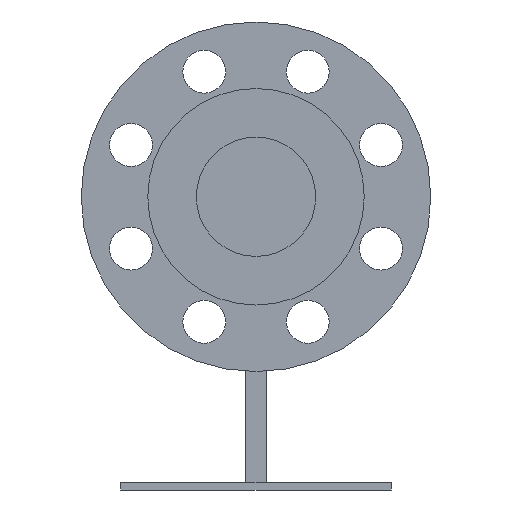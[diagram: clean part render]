
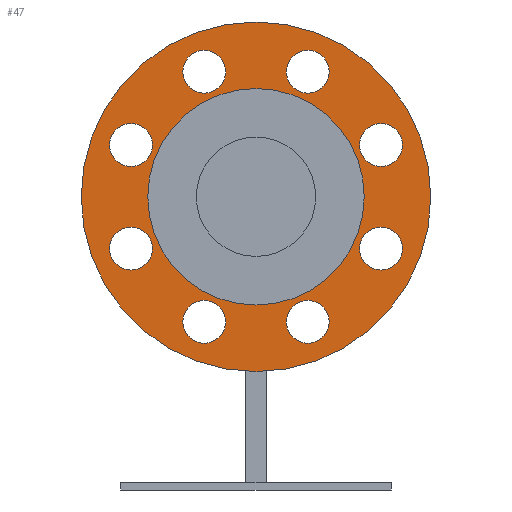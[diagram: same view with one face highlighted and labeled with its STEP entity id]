
A CAD part, left-side view. The second image highlights one B-rep face of the part: STEP entity #47.
In plain terms, the highlighted planar face has unit normal (-1, 0, 0).
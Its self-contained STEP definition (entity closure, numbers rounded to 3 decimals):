
#47=ADVANCED_FACE('',(#216,#217,#218,#219,#220,#221,#222,#223,#224,#225),#215,.T.);
#215=PLANE('',#1175);
#216=FACE_OUTER_BOUND('',#1176,.T.);
#217=FACE_BOUND('',#1177,.T.);
#218=FACE_BOUND('',#1178,.T.);
#219=FACE_BOUND('',#1179,.T.);
#220=FACE_BOUND('',#1180,.T.);
#221=FACE_BOUND('',#1181,.T.);
#222=FACE_BOUND('',#1182,.T.);
#223=FACE_BOUND('',#1183,.T.);
#224=FACE_BOUND('',#1184,.T.);
#225=FACE_BOUND('',#1185,.T.);
#1172=CARTESIAN_POINT('',(-337.,-144.234,-165.));
#1173=DIRECTION('',(-1.,0.,0.));
#1174=DIRECTION('',(0.,0.,1.));
#1175=AXIS2_PLACEMENT_3D('',#1172,#1173,#1174);
#1176=EDGE_LOOP('',(#1693,#1694));
#1177=EDGE_LOOP('',(#1695,#1696));
#1178=EDGE_LOOP('',(#1697,#1698));
#1179=EDGE_LOOP('',(#1699,#1700));
#1180=EDGE_LOOP('',(#1701,#1702));
#1181=EDGE_LOOP('',(#1703,#1704));
#1182=EDGE_LOOP('',(#1705,#1706));
#1183=EDGE_LOOP('',(#1707,#1708));
#1184=EDGE_LOOP('',(#1709,#1710));
#1185=EDGE_LOOP('',(#1711,#1712));
#1693=ORIENTED_EDGE('',*,*,#2177,.T.);
#1694=ORIENTED_EDGE('',*,*,#2178,.T.);
#1695=ORIENTED_EDGE('',*,*,#2179,.T.);
#1696=ORIENTED_EDGE('',*,*,#2180,.T.);
#1697=ORIENTED_EDGE('',*,*,#2181,.T.);
#1698=ORIENTED_EDGE('',*,*,#2182,.T.);
#1699=ORIENTED_EDGE('',*,*,#2183,.T.);
#1700=ORIENTED_EDGE('',*,*,#2184,.T.);
#1701=ORIENTED_EDGE('',*,*,#2185,.T.);
#1702=ORIENTED_EDGE('',*,*,#2186,.T.);
#1703=ORIENTED_EDGE('',*,*,#2187,.T.);
#1704=ORIENTED_EDGE('',*,*,#2188,.T.);
#1705=ORIENTED_EDGE('',*,*,#2189,.T.);
#1706=ORIENTED_EDGE('',*,*,#2190,.T.);
#1707=ORIENTED_EDGE('',*,*,#2191,.T.);
#1708=ORIENTED_EDGE('',*,*,#2192,.T.);
#1709=ORIENTED_EDGE('',*,*,#2193,.T.);
#1710=ORIENTED_EDGE('',*,*,#2194,.T.);
#1711=ORIENTED_EDGE('',*,*,#2195,.F.);
#1712=ORIENTED_EDGE('',*,*,#2196,.F.);
#2177=EDGE_CURVE('',#2689,#2690,#2691,.T.);
#2178=EDGE_CURVE('',#2690,#2689,#2697,.T.);
#2179=EDGE_CURVE('',#2703,#2704,#2705,.T.);
#2180=EDGE_CURVE('',#2704,#2703,#2711,.T.);
#2181=EDGE_CURVE('',#2717,#2718,#2719,.T.);
#2182=EDGE_CURVE('',#2718,#2717,#2725,.T.);
#2183=EDGE_CURVE('',#2731,#2732,#2733,.T.);
#2184=EDGE_CURVE('',#2732,#2731,#2739,.T.);
#2185=EDGE_CURVE('',#2745,#2746,#2747,.T.);
#2186=EDGE_CURVE('',#2746,#2745,#2753,.T.);
#2187=EDGE_CURVE('',#2759,#2760,#2761,.T.);
#2188=EDGE_CURVE('',#2760,#2759,#2767,.T.);
#2189=EDGE_CURVE('',#2773,#2774,#2775,.T.);
#2190=EDGE_CURVE('',#2774,#2773,#2781,.T.);
#2191=EDGE_CURVE('',#2787,#2788,#2789,.T.);
#2192=EDGE_CURVE('',#2788,#2787,#2795,.T.);
#2193=EDGE_CURVE('',#2801,#2802,#2803,.T.);
#2194=EDGE_CURVE('',#2802,#2801,#2809,.T.);
#2195=EDGE_CURVE('',#2815,#2816,#2817,.T.);
#2196=EDGE_CURVE('',#2816,#2815,#2823,.T.);
#2689=VERTEX_POINT('',#4200);
#2690=VERTEX_POINT('',#4201);
#2691=CIRCLE('',#4205,77.5);
#2697=CIRCLE('',#4209,77.5);
#2703=VERTEX_POINT('',#4210);
#2704=VERTEX_POINT('',#4211);
#2705=CIRCLE('',#4215,9.5);
#2711=CIRCLE('',#4219,9.5);
#2717=VERTEX_POINT('',#4220);
#2718=VERTEX_POINT('',#4221);
#2719=CIRCLE('',#4225,9.5);
#2725=CIRCLE('',#4229,9.5);
#2731=VERTEX_POINT('',#4230);
#2732=VERTEX_POINT('',#4231);
#2733=CIRCLE('',#4235,9.5);
#2739=CIRCLE('',#4239,9.5);
#2745=VERTEX_POINT('',#4240);
#2746=VERTEX_POINT('',#4241);
#2747=CIRCLE('',#4245,9.5);
#2753=CIRCLE('',#4249,9.5);
#2759=VERTEX_POINT('',#4250);
#2760=VERTEX_POINT('',#4251);
#2761=CIRCLE('',#4255,9.5);
#2767=CIRCLE('',#4259,9.5);
#2773=VERTEX_POINT('',#4260);
#2774=VERTEX_POINT('',#4261);
#2775=CIRCLE('',#4265,9.5);
#2781=CIRCLE('',#4269,9.5);
#2787=VERTEX_POINT('',#4270);
#2788=VERTEX_POINT('',#4271);
#2789=CIRCLE('',#4275,9.5);
#2795=CIRCLE('',#4279,9.5);
#2801=VERTEX_POINT('',#4280);
#2802=VERTEX_POINT('',#4281);
#2803=CIRCLE('',#4285,9.5);
#2809=CIRCLE('',#4289,9.5);
#2815=VERTEX_POINT('',#4290);
#2816=VERTEX_POINT('',#4291);
#2817=CIRCLE('',#4295,48.);
#2823=CIRCLE('',#4299,48.);
#4200=CARTESIAN_POINT('',(-337.,0.,77.5));
#4201=CARTESIAN_POINT('',(-337.,0.,-77.5));
#4202=CARTESIAN_POINT('',(-337.,0.,0.));
#4203=DIRECTION('',(-1.,0.,0.));
#4204=DIRECTION('',(0.,0.,1.));
#4205=AXIS2_PLACEMENT_3D('',#4202,#4203,#4204);
#4206=CARTESIAN_POINT('',(-337.,0.,0.));
#4207=DIRECTION('',(-1.,0.,0.));
#4208=DIRECTION('',(0.,0.,1.));
#4209=AXIS2_PLACEMENT_3D('',#4206,#4207,#4208);
#4210=CARTESIAN_POINT('',(-337.,55.433,32.461));
#4211=CARTESIAN_POINT('',(-337.,55.433,13.461));
#4212=CARTESIAN_POINT('',(-337.,55.433,22.961));
#4213=DIRECTION('',(1.,0.,0.));
#4214=DIRECTION('',(0.,0.,1.));
#4215=AXIS2_PLACEMENT_3D('',#4212,#4213,#4214);
#4216=CARTESIAN_POINT('',(-337.,55.433,22.961));
#4217=DIRECTION('',(1.,0.,0.));
#4218=DIRECTION('',(0.,0.,1.));
#4219=AXIS2_PLACEMENT_3D('',#4216,#4217,#4218);
#4220=CARTESIAN_POINT('',(-337.,22.962,64.933));
#4221=CARTESIAN_POINT('',(-337.,22.962,45.933));
#4222=CARTESIAN_POINT('',(-337.,22.962,55.433));
#4223=DIRECTION('',(1.,0.,0.));
#4224=DIRECTION('',(0.,0.,1.));
#4225=AXIS2_PLACEMENT_3D('',#4222,#4223,#4224);
#4226=CARTESIAN_POINT('',(-337.,22.962,55.433));
#4227=DIRECTION('',(1.,0.,0.));
#4228=DIRECTION('',(0.,0.,1.));
#4229=AXIS2_PLACEMENT_3D('',#4226,#4227,#4228);
#4230=CARTESIAN_POINT('',(-337.,-22.961,64.933));
#4231=CARTESIAN_POINT('',(-337.,-22.961,45.933));
#4232=CARTESIAN_POINT('',(-337.,-22.961,55.433));
#4233=DIRECTION('',(1.,0.,0.));
#4234=DIRECTION('',(0.,0.,1.));
#4235=AXIS2_PLACEMENT_3D('',#4232,#4233,#4234);
#4236=CARTESIAN_POINT('',(-337.,-22.961,55.433));
#4237=DIRECTION('',(1.,0.,0.));
#4238=DIRECTION('',(0.,0.,1.));
#4239=AXIS2_PLACEMENT_3D('',#4236,#4237,#4238);
#4240=CARTESIAN_POINT('',(-337.,-55.433,32.462));
#4241=CARTESIAN_POINT('',(-337.,-55.433,13.462));
#4242=CARTESIAN_POINT('',(-337.,-55.433,22.962));
#4243=DIRECTION('',(1.,0.,0.));
#4244=DIRECTION('',(0.,0.,1.));
#4245=AXIS2_PLACEMENT_3D('',#4242,#4243,#4244);
#4246=CARTESIAN_POINT('',(-337.,-55.433,22.962));
#4247=DIRECTION('',(1.,0.,0.));
#4248=DIRECTION('',(0.,0.,1.));
#4249=AXIS2_PLACEMENT_3D('',#4246,#4247,#4248);
#4250=CARTESIAN_POINT('',(-337.,-55.433,-13.462));
#4251=CARTESIAN_POINT('',(-337.,-55.433,-32.462));
#4252=CARTESIAN_POINT('',(-337.,-55.433,-22.962));
#4253=DIRECTION('',(1.,0.,0.));
#4254=DIRECTION('',(0.,0.,1.));
#4255=AXIS2_PLACEMENT_3D('',#4252,#4253,#4254);
#4256=CARTESIAN_POINT('',(-337.,-55.433,-22.962));
#4257=DIRECTION('',(1.,0.,0.));
#4258=DIRECTION('',(0.,0.,1.));
#4259=AXIS2_PLACEMENT_3D('',#4256,#4257,#4258);
#4260=CARTESIAN_POINT('',(-337.,-22.961,-45.933));
#4261=CARTESIAN_POINT('',(-337.,-22.961,-64.933));
#4262=CARTESIAN_POINT('',(-337.,-22.961,-55.433));
#4263=DIRECTION('',(1.,0.,0.));
#4264=DIRECTION('',(0.,0.,1.));
#4265=AXIS2_PLACEMENT_3D('',#4262,#4263,#4264);
#4266=CARTESIAN_POINT('',(-337.,-22.961,-55.433));
#4267=DIRECTION('',(1.,0.,0.));
#4268=DIRECTION('',(0.,0.,1.));
#4269=AXIS2_PLACEMENT_3D('',#4266,#4267,#4268);
#4270=CARTESIAN_POINT('',(-337.,22.962,-45.933));
#4271=CARTESIAN_POINT('',(-337.,22.962,-64.933));
#4272=CARTESIAN_POINT('',(-337.,22.962,-55.433));
#4273=DIRECTION('',(1.,0.,0.));
#4274=DIRECTION('',(0.,0.,1.));
#4275=AXIS2_PLACEMENT_3D('',#4272,#4273,#4274);
#4276=CARTESIAN_POINT('',(-337.,22.962,-55.433));
#4277=DIRECTION('',(1.,0.,0.));
#4278=DIRECTION('',(0.,0.,1.));
#4279=AXIS2_PLACEMENT_3D('',#4276,#4277,#4278);
#4280=CARTESIAN_POINT('',(-337.,55.433,-13.461));
#4281=CARTESIAN_POINT('',(-337.,55.433,-32.461));
#4282=CARTESIAN_POINT('',(-337.,55.433,-22.961));
#4283=DIRECTION('',(1.,0.,0.));
#4284=DIRECTION('',(0.,0.,1.));
#4285=AXIS2_PLACEMENT_3D('',#4282,#4283,#4284);
#4286=CARTESIAN_POINT('',(-337.,55.433,-22.961));
#4287=DIRECTION('',(1.,0.,0.));
#4288=DIRECTION('',(0.,0.,1.));
#4289=AXIS2_PLACEMENT_3D('',#4286,#4287,#4288);
#4290=CARTESIAN_POINT('',(-337.,0.,-48.));
#4291=CARTESIAN_POINT('',(-337.,0.,48.));
#4292=CARTESIAN_POINT('',(-337.,0.,0.));
#4293=DIRECTION('',(-1.,0.,0.));
#4294=DIRECTION('',(0.,0.,1.));
#4295=AXIS2_PLACEMENT_3D('',#4292,#4293,#4294);
#4296=CARTESIAN_POINT('',(-337.,0.,0.));
#4297=DIRECTION('',(-1.,0.,0.));
#4298=DIRECTION('',(0.,0.,1.));
#4299=AXIS2_PLACEMENT_3D('',#4296,#4297,#4298);
